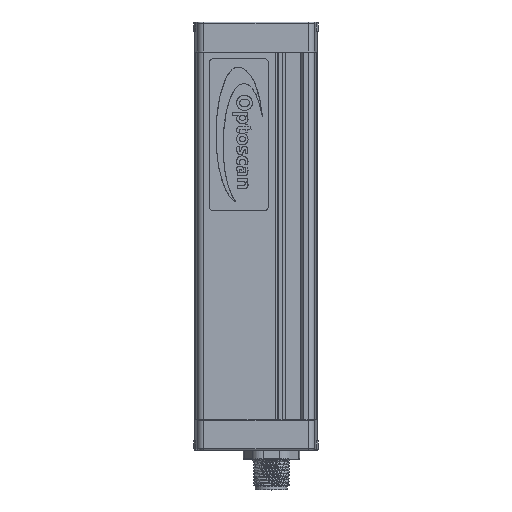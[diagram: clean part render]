
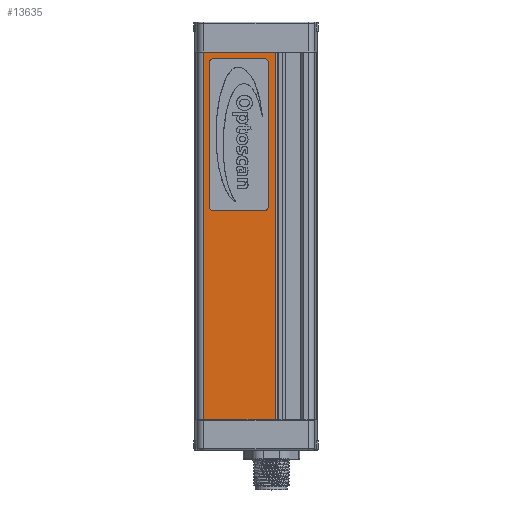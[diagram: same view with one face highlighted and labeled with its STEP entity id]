
A CAD part, top view. The second image highlights one B-rep face of the part: STEP entity #13635.
In plain terms, the highlighted planar face has unit normal (0, 0, 1).
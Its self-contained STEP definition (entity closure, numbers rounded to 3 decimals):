
#165=FACE_BOUND('',#2115,.T.);
#475=CIRCLE('',#14507,1.49);
#476=CIRCLE('',#14508,1.49);
#477=CIRCLE('',#14509,1.49);
#478=CIRCLE('',#14510,1.49);
#992=PLANE('',#14506);
#1357=FACE_OUTER_BOUND('',#2114,.T.);
#2114=EDGE_LOOP('',(#9142,#9143,#9144,#9145));
#2115=EDGE_LOOP('',(#9146,#9147,#9148,#9149,#9150,#9151,#9152,#9153));
#3341=LINE('',#20186,#4403);
#3353=LINE('',#20220,#4415);
#3367=LINE('',#20257,#4429);
#3368=LINE('',#20258,#4430);
#3369=LINE('',#20263,#4431);
#3370=LINE('',#20267,#4432);
#3371=LINE('',#20271,#4433);
#3372=LINE('',#20274,#4434);
#4403=VECTOR('',#16079,10.);
#4415=VECTOR('',#16103,10.);
#4429=VECTOR('',#16131,10.);
#4430=VECTOR('',#16132,10.);
#4431=VECTOR('',#16135,10.);
#4432=VECTOR('',#16138,10.);
#4433=VECTOR('',#16141,10.);
#4434=VECTOR('',#16144,10.);
#5562=VERTEX_POINT('',#20183);
#5563=VERTEX_POINT('',#20185);
#5578=VERTEX_POINT('',#20217);
#5579=VERTEX_POINT('',#20219);
#5596=VERTEX_POINT('',#20259);
#5597=VERTEX_POINT('',#20260);
#5598=VERTEX_POINT('',#20262);
#5599=VERTEX_POINT('',#20264);
#5600=VERTEX_POINT('',#20266);
#5601=VERTEX_POINT('',#20268);
#5602=VERTEX_POINT('',#20270);
#5603=VERTEX_POINT('',#20272);
#6916=EDGE_CURVE('',#5562,#5563,#3341,.T.);
#6932=EDGE_CURVE('',#5579,#5578,#3353,.T.);
#6950=EDGE_CURVE('',#5578,#5563,#3367,.T.);
#6951=EDGE_CURVE('',#5579,#5562,#3368,.T.);
#6952=EDGE_CURVE('',#5596,#5597,#475,.T.);
#6953=EDGE_CURVE('',#5598,#5596,#3369,.T.);
#6954=EDGE_CURVE('',#5599,#5598,#476,.T.);
#6955=EDGE_CURVE('',#5600,#5599,#3370,.T.);
#6956=EDGE_CURVE('',#5601,#5600,#477,.T.);
#6957=EDGE_CURVE('',#5602,#5601,#3371,.T.);
#6958=EDGE_CURVE('',#5603,#5602,#478,.T.);
#6959=EDGE_CURVE('',#5597,#5603,#3372,.T.);
#9142=ORIENTED_EDGE('',*,*,#6932,.T.);
#9143=ORIENTED_EDGE('',*,*,#6950,.T.);
#9144=ORIENTED_EDGE('',*,*,#6916,.F.);
#9145=ORIENTED_EDGE('',*,*,#6951,.F.);
#9146=ORIENTED_EDGE('',*,*,#6952,.F.);
#9147=ORIENTED_EDGE('',*,*,#6953,.F.);
#9148=ORIENTED_EDGE('',*,*,#6954,.F.);
#9149=ORIENTED_EDGE('',*,*,#6955,.F.);
#9150=ORIENTED_EDGE('',*,*,#6956,.F.);
#9151=ORIENTED_EDGE('',*,*,#6957,.F.);
#9152=ORIENTED_EDGE('',*,*,#6958,.F.);
#9153=ORIENTED_EDGE('',*,*,#6959,.F.);
#13635=ADVANCED_FACE('',(#1357,#165),#992,.T.);
#14506=AXIS2_PLACEMENT_3D('',#20256,#16129,#16130);
#14507=AXIS2_PLACEMENT_3D('',#20261,#16133,#16134);
#14508=AXIS2_PLACEMENT_3D('',#20265,#16136,#16137);
#14509=AXIS2_PLACEMENT_3D('',#20269,#16139,#16140);
#14510=AXIS2_PLACEMENT_3D('',#20273,#16142,#16143);
#16079=DIRECTION('',(1.,0.,0.));
#16103=DIRECTION('',(1.,0.,0.));
#16129=DIRECTION('center_axis',(0.,0.,
1.));
#16130=DIRECTION('ref_axis',(1.,0.,0.));
#16131=DIRECTION('',(0.,1.,0.));
#16132=DIRECTION('',(0.,1.,0.));
#16133=DIRECTION('center_axis',(0.,0.,
1.));
#16134=DIRECTION('ref_axis',(0.707,0.707,0.));
#16135=DIRECTION('',(0.,1.,0.));
#16136=DIRECTION('center_axis',(0.,0.,
1.));
#16137=DIRECTION('ref_axis',(0.707,-0.707,0.));
#16138=DIRECTION('',(1.,0.,0.));
#16139=DIRECTION('center_axis',(0.,0.,
1.));
#16140=DIRECTION('ref_axis',(-0.707,-0.707,0.));
#16141=DIRECTION('',(0.,-1.,0.));
#16142=DIRECTION('center_axis',(0.,0.,
1.));
#16143=DIRECTION('ref_axis',(-0.707,0.707,0.));
#16144=DIRECTION('',(-1.,0.,0.));
#20183=CARTESIAN_POINT('',(-12.565,120.,1.277));
#20185=CARTESIAN_POINT('',(10.736,120.,1.277));
#20186=CARTESIAN_POINT('',(-12.565,120.,1.277));
#20217=CARTESIAN_POINT('',(10.736,0.,1.277));
#20219=CARTESIAN_POINT('',(-12.565,0.,1.277));
#20220=CARTESIAN_POINT('',(-12.565,0.,1.277));
#20256=CARTESIAN_POINT('Origin',(-12.565,0.,
1.277));
#20257=CARTESIAN_POINT('',(10.736,0.,1.277));
#20258=CARTESIAN_POINT('',(-12.565,0.,1.277));
#20259=CARTESIAN_POINT('',(8.576,116.5,1.277));
#20260=CARTESIAN_POINT('',(7.086,117.99,1.277));
#20261=CARTESIAN_POINT('Origin',(7.086,116.5,1.277));
#20262=CARTESIAN_POINT('',(8.576,69.7,1.277));
#20263=CARTESIAN_POINT('',(8.576,81.4,1.277));
#20264=CARTESIAN_POINT('',(7.086,68.21,1.277));
#20265=CARTESIAN_POINT('Origin',(7.086,69.7,1.277));
#20266=CARTESIAN_POINT('',(-9.314,68.21,1.277));
#20267=CARTESIAN_POINT('',(-5.214,68.21,1.277));
#20268=CARTESIAN_POINT('',(-10.804,69.7,1.277));
#20269=CARTESIAN_POINT('Origin',(-9.314,69.7,1.277));
#20270=CARTESIAN_POINT('',(-10.804,116.5,1.277));
#20271=CARTESIAN_POINT('',(-10.804,104.8,1.277));
#20272=CARTESIAN_POINT('',(-9.314,117.99,1.277));
#20273=CARTESIAN_POINT('Origin',(-9.314,116.5,1.277));
#20274=CARTESIAN_POINT('',(2.986,117.99,1.277));
